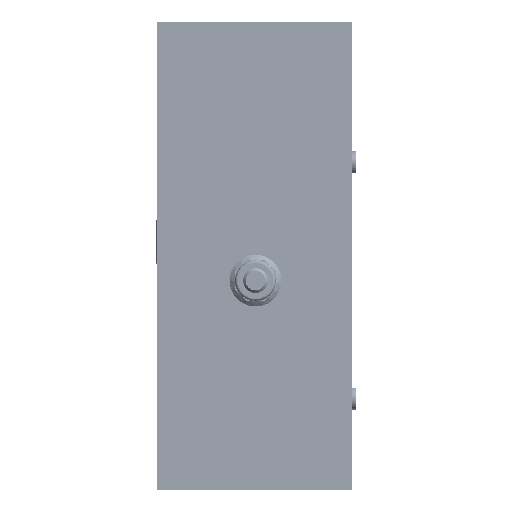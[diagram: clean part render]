
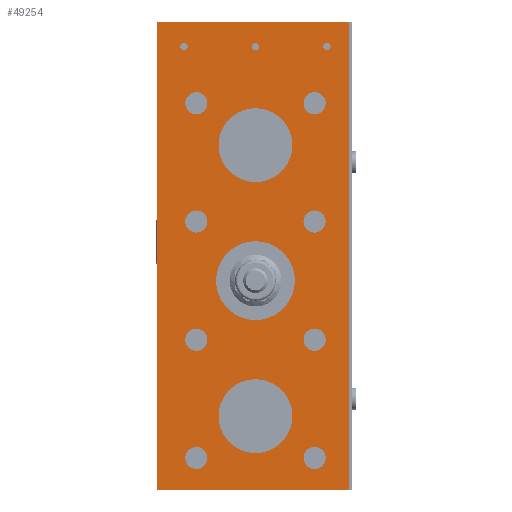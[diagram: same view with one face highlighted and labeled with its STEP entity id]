
A CAD part, left-side view. The second image highlights one B-rep face of the part: STEP entity #49254.
In plain terms, the highlighted planar face has unit normal (-1, 0, 0).
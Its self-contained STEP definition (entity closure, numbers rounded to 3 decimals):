
#47402=CARTESIAN_POINT('',(-144.0,28.5,-82.));
#47403=VERTEX_POINT('',#47402);
#47404=CARTESIAN_POINT('',(-144.0,24.,-82.));
#47405=DIRECTION('',(1.0,0.0,0.0));
#47406=DIRECTION('',(0.0,1.0,0.0));
#47407=AXIS2_PLACEMENT_3D('',#47404,#47405,#47406);
#47408=CIRCLE('',#47407,4.5);
#47409=EDGE_CURVE('',#47403,#47403,#47408,.T.);
#47471=CARTESIAN_POINT('',(-144.0,-19.5,-34.));
#47472=VERTEX_POINT('',#47471);
#47473=CARTESIAN_POINT('',(-144.0,-24.,-34.));
#47474=DIRECTION('',(1.0,0.0,0.0));
#47475=DIRECTION('',(0.0,1.0,0.0));
#47476=AXIS2_PLACEMENT_3D('',#47473,#47474,#47475);
#47477=CIRCLE('',#47476,4.5);
#47478=EDGE_CURVE('',#47472,#47472,#47477,.T.);
#47540=CARTESIAN_POINT('',(-144.,28.5,14.));
#47541=VERTEX_POINT('',#47540);
#47542=CARTESIAN_POINT('',(-144.,24.,14.));
#47543=DIRECTION('',(1.0,0.0,0.0));
#47544=DIRECTION('',(0.0,1.0,0.0));
#47545=AXIS2_PLACEMENT_3D('',#47542,#47543,#47544);
#47546=CIRCLE('',#47545,4.5);
#47547=EDGE_CURVE('',#47541,#47541,#47546,.T.);
#47609=CARTESIAN_POINT('',(-144.,-19.5,62.));
#47610=VERTEX_POINT('',#47609);
#47611=CARTESIAN_POINT('',(-144.,-24.,62.));
#47612=DIRECTION('',(1.0,0.0,0.0));
#47613=DIRECTION('',(0.0,1.0,0.0));
#47614=AXIS2_PLACEMENT_3D('',#47611,#47612,#47613);
#47615=CIRCLE('',#47614,4.5);
#47616=EDGE_CURVE('',#47610,#47610,#47615,.T.);
#47678=CARTESIAN_POINT('',(-144.,28.5,62.));
#47679=VERTEX_POINT('',#47678);
#47680=CARTESIAN_POINT('',(-144.,24.,62.));
#47681=DIRECTION('',(1.0,0.0,0.0));
#47682=DIRECTION('',(0.0,1.0,0.0));
#47683=AXIS2_PLACEMENT_3D('',#47680,#47681,#47682);
#47684=CIRCLE('',#47683,4.5);
#47685=EDGE_CURVE('',#47679,#47679,#47684,.T.);
#47747=CARTESIAN_POINT('',(-144.,-19.5,14.));
#47748=VERTEX_POINT('',#47747);
#47749=CARTESIAN_POINT('',(-144.,-24.,14.));
#47750=DIRECTION('',(1.0,0.0,0.0));
#47751=DIRECTION('',(0.0,1.0,0.0));
#47752=AXIS2_PLACEMENT_3D('',#47749,#47750,#47751);
#47753=CIRCLE('',#47752,4.5);
#47754=EDGE_CURVE('',#47748,#47748,#47753,.T.);
#47816=CARTESIAN_POINT('',(-144.0,-19.5,-82.));
#47817=VERTEX_POINT('',#47816);
#47818=CARTESIAN_POINT('',(-144.0,-24.,-82.));
#47819=DIRECTION('',(1.0,0.0,0.0));
#47820=DIRECTION('',(0.0,1.0,0.0));
#47821=AXIS2_PLACEMENT_3D('',#47818,#47819,#47820);
#47822=CIRCLE('',#47821,4.5);
#47823=EDGE_CURVE('',#47817,#47817,#47822,.T.);
#47885=CARTESIAN_POINT('',(-144.0,28.5,-34.));
#47886=VERTEX_POINT('',#47885);
#47887=CARTESIAN_POINT('',(-144.0,24.,-34.));
#47888=DIRECTION('',(1.0,0.0,0.0));
#47889=DIRECTION('',(0.0,1.0,0.0));
#47890=AXIS2_PLACEMENT_3D('',#47887,#47888,#47889);
#47891=CIRCLE('',#47890,4.5);
#47892=EDGE_CURVE('',#47886,#47886,#47891,.T.);
#47954=CARTESIAN_POINT('',(-144.,15.,45.));
#47955=VERTEX_POINT('',#47954);
#47956=CARTESIAN_POINT('',(-144.,0.,45.));
#47957=DIRECTION('',(1.0,0.0,0.0));
#47958=DIRECTION('',(0.0,1.0,0.0));
#47959=AXIS2_PLACEMENT_3D('',#47956,#47957,#47958);
#47960=CIRCLE('',#47959,15.0);
#47961=EDGE_CURVE('',#47955,#47955,#47960,.T.);
#47995=CARTESIAN_POINT('',(-144.0,15.,-65.));
#47996=VERTEX_POINT('',#47995);
#47997=CARTESIAN_POINT('',(-144.0,0.,-65.));
#47998=DIRECTION('',(1.0,0.0,0.0));
#47999=DIRECTION('',(0.0,1.0,0.0));
#48000=AXIS2_PLACEMENT_3D('',#47997,#47998,#47999);
#48001=CIRCLE('',#48000,15.0);
#48002=EDGE_CURVE('',#47996,#47996,#48001,.T.);
#48036=CARTESIAN_POINT('',(-144.,16.,-10.));
#48037=VERTEX_POINT('',#48036);
#48038=CARTESIAN_POINT('',(-144.,0.,-10.));
#48039=DIRECTION('',(1.0,0.0,0.0));
#48040=DIRECTION('',(0.0,1.0,0.0));
#48041=AXIS2_PLACEMENT_3D('',#48038,#48039,#48040);
#48042=CIRCLE('',#48041,16.0);
#48043=EDGE_CURVE('',#48037,#48037,#48042,.T.);
#48077=CARTESIAN_POINT('',(-144.,1.5,85.));
#48078=VERTEX_POINT('',#48077);
#48079=CARTESIAN_POINT('',(-144.,0.,85.));
#48080=DIRECTION('',(1.0,0.0,0.0));
#48081=DIRECTION('',(0.0,-1.0,0.0));
#48082=AXIS2_PLACEMENT_3D('',#48079,#48080,#48081);
#48083=CIRCLE('',#48082,1.5);
#48084=EDGE_CURVE('',#48078,#48078,#48083,.T.);
#48118=CARTESIAN_POINT('',(-144.,30.5,85.));
#48119=VERTEX_POINT('',#48118);
#48120=CARTESIAN_POINT('',(-144.,29.,85.));
#48121=DIRECTION('',(1.0,0.0,0.0));
#48122=DIRECTION('',(0.0,-1.0,0.0));
#48123=AXIS2_PLACEMENT_3D('',#48120,#48121,#48122);
#48124=CIRCLE('',#48123,1.5);
#48125=EDGE_CURVE('',#48119,#48119,#48124,.T.);
#48159=CARTESIAN_POINT('',(-144.,-27.5,85.));
#48160=VERTEX_POINT('',#48159);
#48161=CARTESIAN_POINT('',(-144.,-29.,85.));
#48162=DIRECTION('',(1.0,0.0,0.0));
#48163=DIRECTION('',(0.0,-1.0,0.0));
#48164=AXIS2_PLACEMENT_3D('',#48161,#48162,#48163);
#48165=CIRCLE('',#48164,1.5);
#48166=EDGE_CURVE('',#48160,#48160,#48165,.T.);
#48995=CARTESIAN_POINT('',(-144.,40.,95.));
#48996=VERTEX_POINT('',#48995);
#48997=CARTESIAN_POINT('',(-144.,-38.,95.));
#48998=VERTEX_POINT('',#48997);
#48999=CARTESIAN_POINT('',(-144.,40.,95.));
#49000=DIRECTION('',(0.0,-1.0,0.0));
#49001=VECTOR('',#49000,78.);
#49002=LINE('',#48999,#49001);
#49003=EDGE_CURVE('',#48996,#48998,#49002,.T.);
#49035=CARTESIAN_POINT('',(-144.0,-38.,-95.));
#49036=VERTEX_POINT('',#49035);
#49037=CARTESIAN_POINT('',(-144.,-38.,95.));
#49038=DIRECTION('',(0.0,0.0,-1.0));
#49039=VECTOR('',#49038,190.0);
#49040=LINE('',#49037,#49039);
#49041=EDGE_CURVE('',#48998,#49036,#49040,.T.);
#49066=CARTESIAN_POINT('',(-144.0,40.,-95.));
#49067=VERTEX_POINT('',#49066);
#49068=CARTESIAN_POINT('',(-144.0,-38.,-95.));
#49069=DIRECTION('',(0.0,1.0,0.0));
#49070=VECTOR('',#49069,78.);
#49071=LINE('',#49068,#49070);
#49072=EDGE_CURVE('',#49036,#49067,#49071,.T.);
#49097=CARTESIAN_POINT('',(-144.0,40.,-95.));
#49098=DIRECTION('',(0.0,0.0,1.0));
#49099=VECTOR('',#49098,190.);
#49100=LINE('',#49097,#49099);
#49101=EDGE_CURVE('',#49067,#48996,#49100,.T.);
#49201=CARTESIAN_POINT('',(-144.,1.,0.));
#49202=DIRECTION('',(-1.0,0.0,0.0));
#49203=DIRECTION('',(0.0,1.0,0.0));
#49204=AXIS2_PLACEMENT_3D('',#49201,#49202,#49203);
#49205=PLANE('',#49204);
#49206=ORIENTED_EDGE('',*,*,#49003,.F.);
#49207=ORIENTED_EDGE('',*,*,#49101,.F.);
#49208=ORIENTED_EDGE('',*,*,#49072,.F.);
#49209=ORIENTED_EDGE('',*,*,#49041,.F.);
#49210=EDGE_LOOP('',(#49206,#49207,#49208,#49209));
#49211=FACE_OUTER_BOUND('',#49210,.T.);
#49212=ORIENTED_EDGE('',*,*,#47409,.T.);
#49213=EDGE_LOOP('',(#49212));
#49214=FACE_BOUND('',#49213,.T.);
#49215=ORIENTED_EDGE('',*,*,#47478,.T.);
#49216=EDGE_LOOP('',(#49215));
#49217=FACE_BOUND('',#49216,.T.);
#49218=ORIENTED_EDGE('',*,*,#47547,.T.);
#49219=EDGE_LOOP('',(#49218));
#49220=FACE_BOUND('',#49219,.T.);
#49221=ORIENTED_EDGE('',*,*,#47616,.T.);
#49222=EDGE_LOOP('',(#49221));
#49223=FACE_BOUND('',#49222,.T.);
#49224=ORIENTED_EDGE('',*,*,#47685,.T.);
#49225=EDGE_LOOP('',(#49224));
#49226=FACE_BOUND('',#49225,.T.);
#49227=ORIENTED_EDGE('',*,*,#47754,.T.);
#49228=EDGE_LOOP('',(#49227));
#49229=FACE_BOUND('',#49228,.T.);
#49230=ORIENTED_EDGE('',*,*,#47823,.T.);
#49231=EDGE_LOOP('',(#49230));
#49232=FACE_BOUND('',#49231,.T.);
#49233=ORIENTED_EDGE('',*,*,#47892,.T.);
#49234=EDGE_LOOP('',(#49233));
#49235=FACE_BOUND('',#49234,.T.);
#49236=ORIENTED_EDGE('',*,*,#47961,.T.);
#49237=EDGE_LOOP('',(#49236));
#49238=FACE_BOUND('',#49237,.T.);
#49239=ORIENTED_EDGE('',*,*,#48002,.T.);
#49240=EDGE_LOOP('',(#49239));
#49241=FACE_BOUND('',#49240,.T.);
#49242=ORIENTED_EDGE('',*,*,#48043,.T.);
#49243=EDGE_LOOP('',(#49242));
#49244=FACE_BOUND('',#49243,.T.);
#49245=ORIENTED_EDGE('',*,*,#48084,.T.);
#49246=EDGE_LOOP('',(#49245));
#49247=FACE_BOUND('',#49246,.T.);
#49248=ORIENTED_EDGE('',*,*,#48125,.T.);
#49249=EDGE_LOOP('',(#49248));
#49250=FACE_BOUND('',#49249,.T.);
#49251=ORIENTED_EDGE('',*,*,#48166,.T.);
#49252=EDGE_LOOP('',(#49251));
#49253=FACE_BOUND('',#49252,.T.);
#49254=ADVANCED_FACE('',(#49211,#49214,#49217,#49220,#49223,#49226,#49229,#49232,#49235,#49238,#49241,#49244,#49247,#49250,#49253),#49205,.T.);
